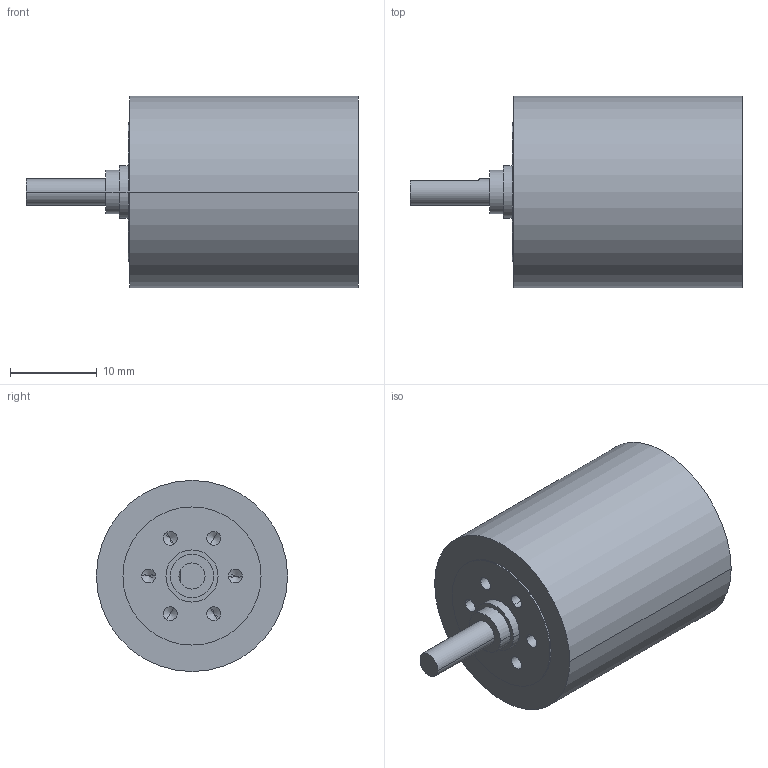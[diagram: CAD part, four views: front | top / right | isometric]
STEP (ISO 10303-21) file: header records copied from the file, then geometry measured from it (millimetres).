
FILE_DESCRIPTION((''),'2;1');
FILE_NAME('1118185','2010-02-04T',('MMAGMIBU'),(''),'PRO/ENGINEER BY PARAMETRIC TECHNOLOGY CORPORATION, 2009230','PRO/ENGINEER BY PARAMETRIC TECHNOLOGY CORPORATION, 2009230','');
FILE_SCHEMA(('CONFIG_CONTROL_DESIGN'));
Length unit declared in the file: millimetre
Products named in the file (1): 1118185
Bounding box: 38.2 x 22 x 22 mm (x, y, z)
Volume: 9341.3 mm3; surface area: 2962.8 mm2
Topology: 1 solids, 1 shells, 45 faces, 102 edges, 58 vertices
Faces by surface type: cylinder 24, cone 12, plane 9
Entity records: 1223 total; most frequent: DIRECTION 226, CARTESIAN_POINT 198, ORIENTED_EDGE 180, AXIS2_PLACEMENT_3D 93, EDGE_CURVE 90, VERTEX_POINT 58, EDGE_LOOP 56, CIRCLE 48
